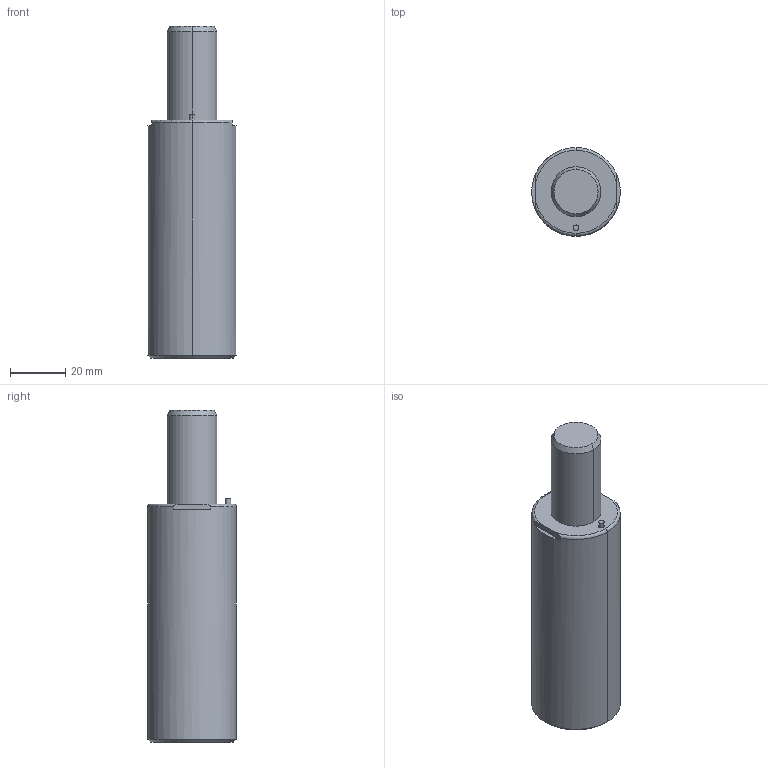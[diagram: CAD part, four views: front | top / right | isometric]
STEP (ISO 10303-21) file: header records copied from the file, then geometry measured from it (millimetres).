
FILE_DESCRIPTION(/* description */ (''),/* implementation_level */ '2;1');
FILE_NAME(/* name */ '3d_gsx32-32_03959_r00.stp',/* time_stamp */ '2011-01-10T14:15:14+09:00',/* author */ ('MISUMI'),/* organization */ (''),/* preprocessor_version */ 'ST-DEVELOPER v11',/* originating_system */ 'UGS - NX 5.0',/* authorisation */ '');
FILE_SCHEMA (('CONFIG_CONTROL_DESIGN'));
Length unit declared in the file: millimetre
Products named in the file (1): 3d_gsx32-32_03959_r00
Bounding box: 32 x 32 x 120 mm (x, y, z)
Volume: 76377 mm3; surface area: 12930.7 mm2
Topology: 1 solids, 1 shells, 45 faces, 98 edges, 60 vertices
Faces by surface type: cylinder 20, plane 13, cone 8, torus 4
Entity records: 1324 total; most frequent: DIRECTION 236, CARTESIAN_POINT 228, ORIENTED_EDGE 188, AXIS2_PLACEMENT_3D 100, EDGE_CURVE 94, VERTEX_POINT 60, EDGE_LOOP 54, CIRCLE 54
